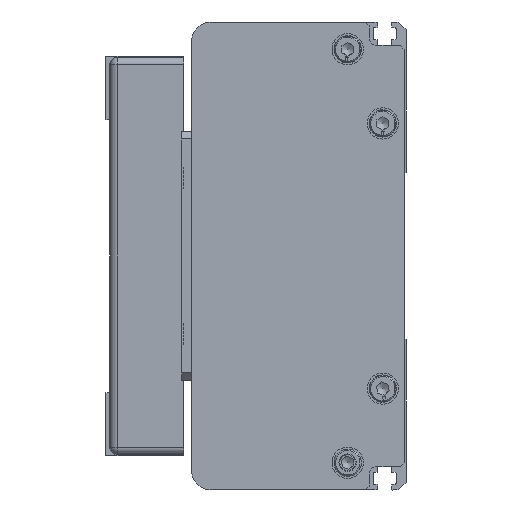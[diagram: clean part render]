
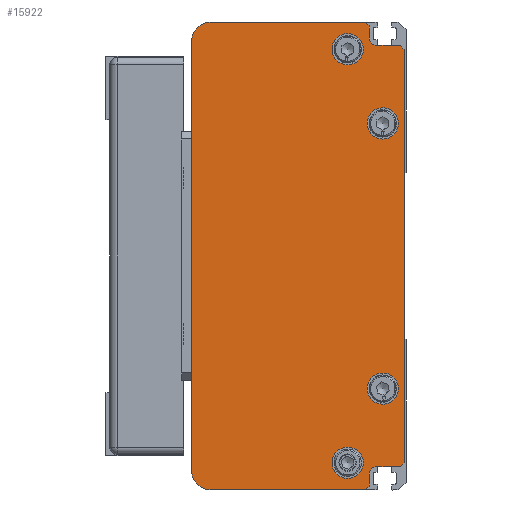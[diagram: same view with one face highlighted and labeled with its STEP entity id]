
A CAD part, left-side view. The second image highlights one B-rep face of the part: STEP entity #15922.
In plain terms, the highlighted planar face has unit normal (-1, 0, 0) as drawn and (0, 0, -1) by its records, which use the part's own axes.
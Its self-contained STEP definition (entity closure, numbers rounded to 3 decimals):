
#834=FACE_BOUND('',#2629,.T.);
#835=FACE_BOUND('',#2630,.T.);
#836=FACE_BOUND('',#2631,.T.);
#837=FACE_BOUND('',#2632,.T.);
#1156=CIRCLE('',#17062,5.);
#1157=CIRCLE('',#17064,5.);
#1158=CIRCLE('',#17065,2.);
#1159=CIRCLE('',#17066,2.);
#1160=CIRCLE('',#17067,4.);
#1161=CIRCLE('',#17068,4.);
#1162=CIRCLE('',#17069,4.);
#1163=CIRCLE('',#17070,4.);
#1592=FACE_OUTER_BOUND('',#2628,.T.);
#2628=EDGE_LOOP('',(#10970,#10971,#10972,#10973,#10974,#10975,#10976,#10977,
#10978,#10979,#10980,#10981,#10982,#10983,#10984,#10985));
#2629=EDGE_LOOP('',(#10986));
#2630=EDGE_LOOP('',(#10987));
#2631=EDGE_LOOP('',(#10988));
#2632=EDGE_LOOP('',(#10989));
#3873=LINE('',#22787,#5404);
#3874=LINE('',#22789,#5405);
#3875=LINE('',#22792,#5406);
#3876=LINE('',#22794,#5407);
#3877=LINE('',#22796,#5408);
#3878=LINE('',#22798,#5409);
#3879=LINE('',#22802,#5410);
#3880=LINE('',#22804,#5411);
#3881=LINE('',#22806,#5412);
#3882=LINE('',#22808,#5413);
#3883=LINE('',#22810,#5414);
#3884=LINE('',#22813,#5415);
#5404=VECTOR('',#18606,1.414);
#5405=VECTOR('',#18607,39.5);
#5406=VECTOR('',#18610,110.);
#5407=VECTOR('',#18611,39.5);
#5408=VECTOR('',#18612,1.414);
#5409=VECTOR('',#18613,3.);
#5410=VECTOR('',#18616,6.);
#5411=VECTOR('',#18617,1.414);
#5412=VECTOR('',#18618,106.);
#5413=VECTOR('',#18619,1.414);
#5414=VECTOR('',#18620,6.);
#5415=VECTOR('',#18623,3.);
#6973=VERTEX_POINT('',#22779);
#6974=VERTEX_POINT('',#22781);
#6975=VERTEX_POINT('',#22785);
#6976=VERTEX_POINT('',#22786);
#6977=VERTEX_POINT('',#22788);
#6978=VERTEX_POINT('',#22790);
#6979=VERTEX_POINT('',#22793);
#6980=VERTEX_POINT('',#22795);
#6981=VERTEX_POINT('',#22797);
#6982=VERTEX_POINT('',#22799);
#6983=VERTEX_POINT('',#22801);
#6984=VERTEX_POINT('',#22803);
#6985=VERTEX_POINT('',#22805);
#6986=VERTEX_POINT('',#22807);
#6987=VERTEX_POINT('',#22809);
#6988=VERTEX_POINT('',#22811);
#6989=VERTEX_POINT('',#22814);
#6990=VERTEX_POINT('',#22816);
#6991=VERTEX_POINT('',#22818);
#6992=VERTEX_POINT('',#22820);
#8569=EDGE_CURVE('',#6973,#6974,#1156,.T.);
#8571=EDGE_CURVE('',#6975,#6976,#3873,.T.);
#8572=EDGE_CURVE('',#6975,#6977,#3874,.T.);
#8573=EDGE_CURVE('',#6978,#6977,#1157,.T.);
#8574=EDGE_CURVE('',#6978,#6974,#3875,.T.);
#8575=EDGE_CURVE('',#6973,#6979,#3876,.T.);
#8576=EDGE_CURVE('',#6980,#6979,#3877,.T.);
#8577=EDGE_CURVE('',#6980,#6981,#3878,.T.);
#8578=EDGE_CURVE('',#6981,#6982,#1158,.T.);
#8579=EDGE_CURVE('',#6982,#6983,#3879,.T.);
#8580=EDGE_CURVE('',#6984,#6983,#3880,.T.);
#8581=EDGE_CURVE('',#6984,#6985,#3881,.T.);
#8582=EDGE_CURVE('',#6986,#6985,#3882,.T.);
#8583=EDGE_CURVE('',#6986,#6987,#3883,.T.);
#8584=EDGE_CURVE('',#6987,#6988,#1159,.T.);
#8585=EDGE_CURVE('',#6988,#6976,#3884,.T.);
#8586=EDGE_CURVE('',#6989,#6989,#1160,.T.);
#8587=EDGE_CURVE('',#6990,#6990,#1161,.T.);
#8588=EDGE_CURVE('',#6991,#6991,#1162,.T.);
#8589=EDGE_CURVE('',#6992,#6992,#1163,.T.);
#10970=ORIENTED_EDGE('',*,*,#8571,.F.);
#10971=ORIENTED_EDGE('',*,*,#8572,.T.);
#10972=ORIENTED_EDGE('',*,*,#8573,.F.);
#10973=ORIENTED_EDGE('',*,*,#8574,.T.);
#10974=ORIENTED_EDGE('',*,*,#8569,.F.);
#10975=ORIENTED_EDGE('',*,*,#8575,.T.);
#10976=ORIENTED_EDGE('',*,*,#8576,.F.);
#10977=ORIENTED_EDGE('',*,*,#8577,.T.);
#10978=ORIENTED_EDGE('',*,*,#8578,.T.);
#10979=ORIENTED_EDGE('',*,*,#8579,.T.);
#10980=ORIENTED_EDGE('',*,*,#8580,.F.);
#10981=ORIENTED_EDGE('',*,*,#8581,.T.);
#10982=ORIENTED_EDGE('',*,*,#8582,.F.);
#10983=ORIENTED_EDGE('',*,*,#8583,.T.);
#10984=ORIENTED_EDGE('',*,*,#8584,.T.);
#10985=ORIENTED_EDGE('',*,*,#8585,.T.);
#10986=ORIENTED_EDGE('',*,*,#8586,.T.);
#10987=ORIENTED_EDGE('',*,*,#8587,.T.);
#10988=ORIENTED_EDGE('',*,*,#8588,.T.);
#10989=ORIENTED_EDGE('',*,*,#8589,.T.);
#15294=PLANE('',#17063);
#15922=ADVANCED_FACE('',(#1592,#834,#835,#836,#837),#15294,.F.);
#17062=AXIS2_PLACEMENT_3D('',#22782,#18601,#18602);
#17063=AXIS2_PLACEMENT_3D('',#22784,#18604,#18605);
#17064=AXIS2_PLACEMENT_3D('',#22791,#18608,#18609);
#17065=AXIS2_PLACEMENT_3D('',#22800,#18614,#18615);
#17066=AXIS2_PLACEMENT_3D('',#22812,#18621,#18622);
#17067=AXIS2_PLACEMENT_3D('',#22815,#18624,#18625);
#17068=AXIS2_PLACEMENT_3D('',#22817,#18626,#18627);
#17069=AXIS2_PLACEMENT_3D('',#22819,#18628,#18629);
#17070=AXIS2_PLACEMENT_3D('',#22821,#18630,#18631);
#18601=DIRECTION('center_axis',(0.,0.,
1.));
#18602=DIRECTION('ref_axis',(0.707,0.707,0.));
#18604=DIRECTION('center_axis',(0.,0.,
1.));
#18605=DIRECTION('ref_axis',(-1.,-0.018,0.));
#18606=DIRECTION('',(0.707,-0.707,0.));
#18607=DIRECTION('',(0.,1.,0.));
#18608=DIRECTION('center_axis',(0.,0.,
1.));
#18609=DIRECTION('ref_axis',(-0.707,0.707,0.));
#18610=DIRECTION('',(1.,0.,0.));
#18611=DIRECTION('',(0.,-1.,0.));
#18612=DIRECTION('',(0.707,0.707,0.));
#18613=DIRECTION('',(-1.,0.,0.));
#18614=DIRECTION('center_axis',(0.,0.,
1.));
#18615=DIRECTION('ref_axis',(0.,-1.,0.));
#18616=DIRECTION('',(0.,-1.,0.));
#18617=DIRECTION('',(0.707,0.707,0.));
#18618=DIRECTION('',(-1.,0.,0.));
#18619=DIRECTION('',(0.707,-0.707,0.));
#18620=DIRECTION('',(0.,1.,0.));
#18621=DIRECTION('center_axis',(0.,0.,
1.));
#18622=DIRECTION('ref_axis',(1.,0.,0.));
#18623=DIRECTION('',(-1.,0.,0.));
#18624=DIRECTION('center_axis',(0.,0.,
1.));
#18625=DIRECTION('ref_axis',(0.,1.,0.));
#18626=DIRECTION('center_axis',(0.,0.,
1.));
#18627=DIRECTION('ref_axis',(0.,1.,0.));
#18628=DIRECTION('center_axis',(0.,0.,
1.));
#18629=DIRECTION('ref_axis',(0.,1.,0.));
#18630=DIRECTION('center_axis',(0.,0.,
1.));
#18631=DIRECTION('ref_axis',(0.,1.,0.));
#22779=CARTESIAN_POINT('',(124.75,50.75,-1092.5));
#22781=CARTESIAN_POINT('',(119.75,55.75,-1092.5));
#22782=CARTESIAN_POINT('Origin',(119.75,50.75,-1092.5));
#22784=CARTESIAN_POINT('Origin',(64.75,28.5,-1092.5));
#22785=CARTESIAN_POINT('',(4.75,11.25,-1092.5));
#22786=CARTESIAN_POINT('',(5.75,10.25,-1092.5));
#22787=CARTESIAN_POINT('',(4.75,11.25,-1092.5));
#22788=CARTESIAN_POINT('',(4.75,50.75,-1092.5));
#22789=CARTESIAN_POINT('',(4.75,11.25,-1092.5));
#22790=CARTESIAN_POINT('',(9.75,55.75,-1092.5));
#22791=CARTESIAN_POINT('Origin',(9.75,50.75,-1092.5));
#22792=CARTESIAN_POINT('',(9.75,55.75,-1092.5));
#22793=CARTESIAN_POINT('',(124.75,11.25,-1092.5));
#22794=CARTESIAN_POINT('',(124.75,50.75,-1092.5));
#22795=CARTESIAN_POINT('',(123.75,10.25,-1092.5));
#22796=CARTESIAN_POINT('',(123.75,10.25,-1092.5));
#22797=CARTESIAN_POINT('',(120.75,10.25,-1092.5));
#22798=CARTESIAN_POINT('',(123.75,10.25,-1092.5));
#22799=CARTESIAN_POINT('',(118.75,8.25,-1092.5));
#22800=CARTESIAN_POINT('Origin',(120.75,8.25,-1092.5));
#22801=CARTESIAN_POINT('',(118.75,2.25,-1092.5));
#22802=CARTESIAN_POINT('',(118.75,8.25,-1092.5));
#22803=CARTESIAN_POINT('',(117.75,1.25,-1092.5));
#22804=CARTESIAN_POINT('',(117.75,1.25,-1092.5));
#22805=CARTESIAN_POINT('',(11.75,1.25,-1092.5));
#22806=CARTESIAN_POINT('',(117.75,1.25,-1092.5));
#22807=CARTESIAN_POINT('',(10.75,2.25,-1092.5));
#22808=CARTESIAN_POINT('',(10.75,2.25,-1092.5));
#22809=CARTESIAN_POINT('',(10.75,8.25,-1092.5));
#22810=CARTESIAN_POINT('',(10.75,2.25,-1092.5));
#22811=CARTESIAN_POINT('',(8.75,10.25,-1092.5));
#22812=CARTESIAN_POINT('Origin',(8.75,8.25,-1092.5));
#22813=CARTESIAN_POINT('',(8.75,10.25,-1092.5));
#22814=CARTESIAN_POINT('',(30.75,10.75,-1092.5));
#22815=CARTESIAN_POINT('Origin',(30.75,6.75,-1092.5));
#22816=CARTESIAN_POINT('',(98.75,10.75,-1092.5));
#22817=CARTESIAN_POINT('Origin',(98.75,6.75,-1092.5));
#22818=CARTESIAN_POINT('',(11.75,19.75,-1092.5));
#22819=CARTESIAN_POINT('Origin',(11.75,15.75,-1092.5));
#22820=CARTESIAN_POINT('',(117.75,19.75,-1092.5));
#22821=CARTESIAN_POINT('Origin',(117.75,15.75,-1092.5));
